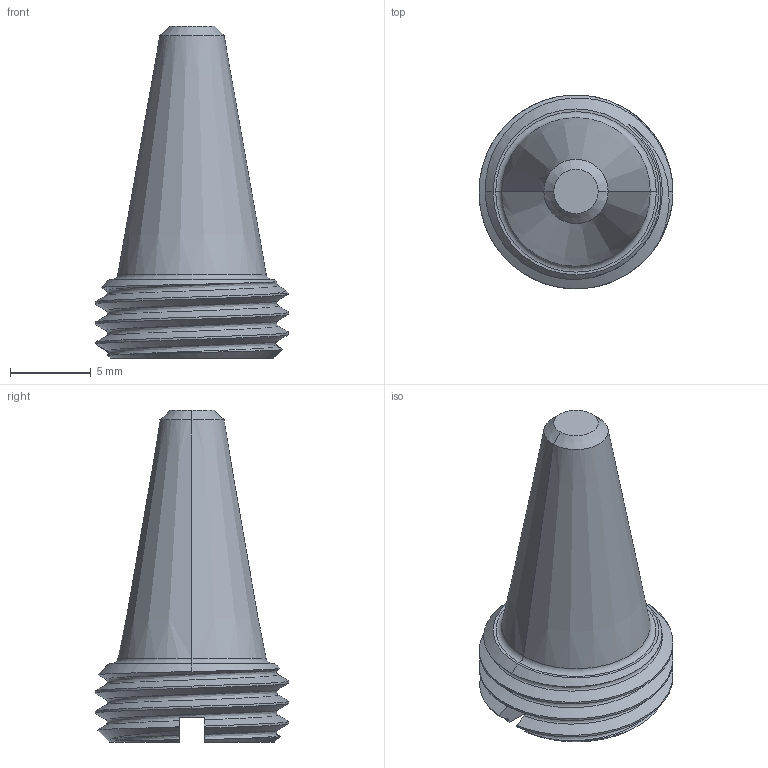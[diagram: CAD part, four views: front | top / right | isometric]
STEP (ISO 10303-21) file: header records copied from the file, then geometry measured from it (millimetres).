
FILE_DESCRIPTION (( 'STEP AP214' ), '1' );
FILE_NAME ('3DFSHB1203100M.STEP', '2021-03-31T18:17:23', ( '' ), ( '' ), 'SwSTEP 2.0', 'SolidWorks 2019', '' );
FILE_SCHEMA (( 'AUTOMOTIVE_DESIGN' ));
Length unit declared in the file: inch
Products named in the file (1): 3DFSHB1203100M
Bounding box: 12 x 11.99 x 20.55 mm (x, y, z)
Volume: 998.1 mm3; surface area: 729.1 mm2
Topology: 1 solids, 1 shells, 223 faces, 595 edges, 395 vertices
Faces by surface type: plane 124, bspline 80, cone 10, cylinder 7, torus 2
Entity records: 18225 total; most frequent: CARTESIAN_POINT 10838, ORIENTED_EDGE 1190, DIRECTION 710, EDGE_CURVE 595, VERTEX_POINT 395, VECTOR 382, LINE 382, EDGE_LOOP 244
